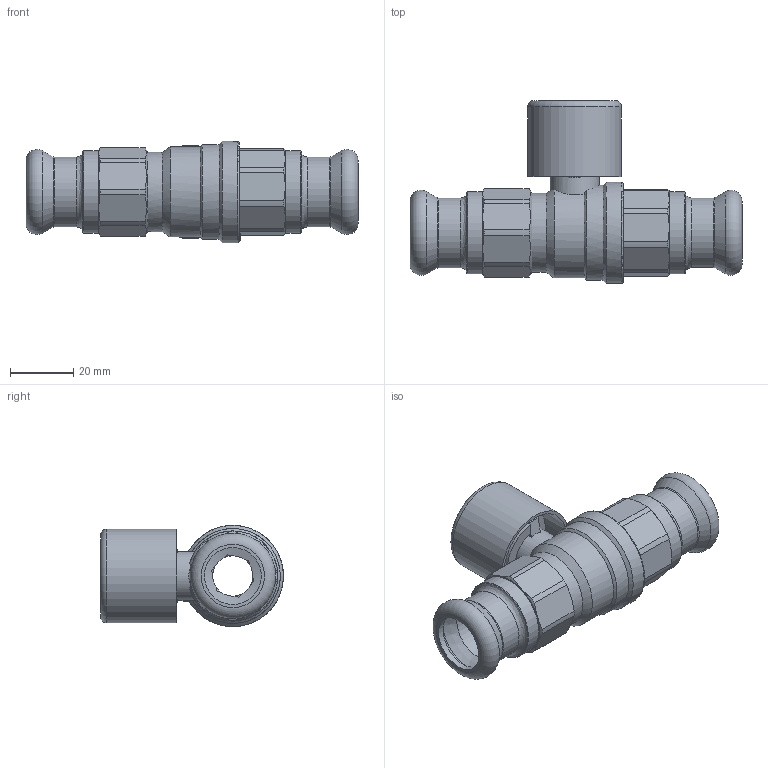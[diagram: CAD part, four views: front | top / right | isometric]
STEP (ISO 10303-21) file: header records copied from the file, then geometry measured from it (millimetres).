
FILE_DESCRIPTION((''),'2;1');
FILE_NAME('P:\Fastrack\53972_CRANE 3D\Press Fit\D171A\Lockshield\18MM\D171ALS-PF-18MM.stp','2011-11-18T13:00:18',('dcole'),(''),'Autodesk Inventor 2008','Autodesk Inventor 2008','');
FILE_SCHEMA(('AUTOMOTIVE_DESIGN { 1 0 10303 214 1 1 1 1 }'));
Length unit declared in the file: millimetre
Products named in the file (1): D171ALS-PF-18MM
Bounding box: 104.9 x 57.8 x 32 mm (x, y, z)
Volume: 45465.1 mm3; surface area: 27137.4 mm2
Topology: 1 solids, 1 shells, 331 faces, 1026 edges, 733 vertices
Faces by surface type: plane 154, cylinder 77, cone 77, bspline 15, torus 8
Full cylindrical faces by diameter (mm): 2 x2, 8 x1, 8.1 x2, 8.3 x1, 10.5 x1, 10.6 x1, 10.75 x1, 14.8 x1, 15 x4, 15.5 x1, 16.2 x1, 18 x6, 18.631 x2, 22 x2, 25 x3, 26 x2, 27.6 x1, 29.6 x1, 30 x1, 32 x1
Entity records: 14576 total; most frequent: CARTESIAN_POINT 5892, ORIENTED_EDGE 1826, DIRECTION 1586, EDGE_CURVE 913, VERTEX_POINT 699, AXIS2_PLACEMENT_3D 600, EDGE_LOOP 470, VECTOR 386
